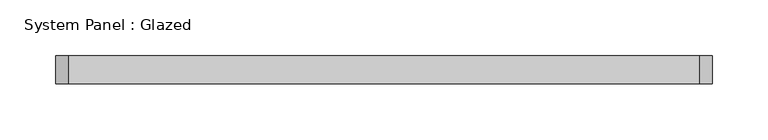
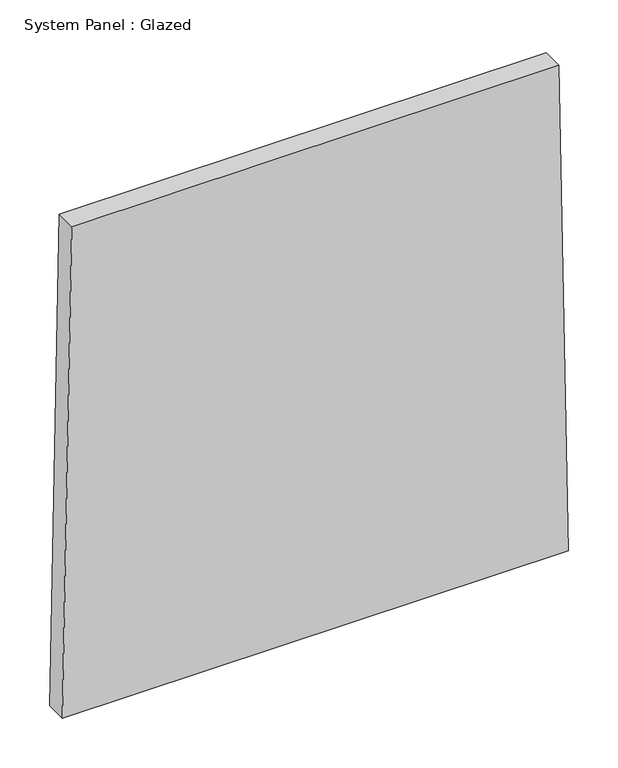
"""IFC4 building model written with IfcOpenShell, lengths in millimetres: plate geometry, System Panel : Glazed."""

from ifc_helpers import new_model, si_unit, frame, origin, place, context, project, spatial, polyline, outline, extrude, source, transform, mapped, element, save


def system_panel_glazed_b87b3be6(model_context):
    return source(origin(), model_context, "Body", "SweptSolid", [
        extrude(outline(polyline([(0.0, -293.8212465), (0.0, 293.8212465), (599.8996613, 282.8487193), (599.8996613, -282.8487193), (0.0, -293.8212465)])), frame((0.0, 24.5, 0.0), z_axis=(0.0, 1.0, 0.0), x_axis=(0.0, 0.0, 1.0)), (0.0, 0.0, 1.0), 25.0),
    ])


if __name__ == "__main__":
    model = new_model("IFC4")
    model_context = context("Model", 3, world=origin())
    ifc_project = project(units=[si_unit("LENGTHUNIT", "METRE", prefix="MILLI")], contexts=[model_context])
    site = spatial("IfcSite", under=ifc_project)
    building = spatial("IfcBuilding", under=site)
    placement = place(None, origin())
    system_panel_glazed_shape = system_panel_glazed_b87b3be6(model_context)
    element("IfcPlate", 1, ObjectType="System Panel : Glazed", at=placement, inside=building, context=model_context, shape_type="MappedRepresentation", body=[
        mapped(system_panel_glazed_shape, transform((0.0, 0.0, 0.0), x_axis=(1.0, 0.0, 0.0), y_axis=(0.0, 1.0, 0.0), z_axis=(0.0, 0.0, 1.0))),
    ])
    save(model, "model.ifc")
